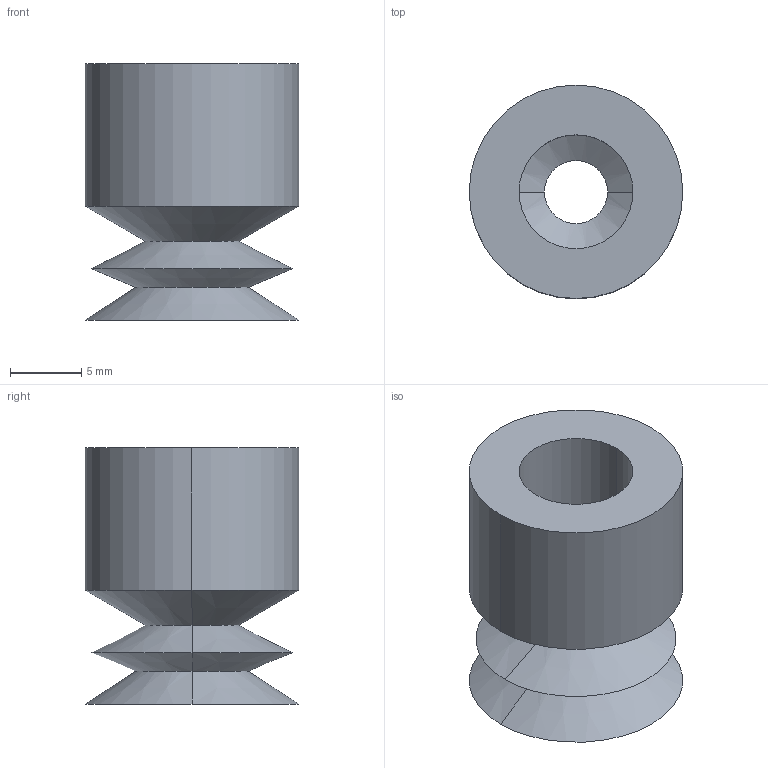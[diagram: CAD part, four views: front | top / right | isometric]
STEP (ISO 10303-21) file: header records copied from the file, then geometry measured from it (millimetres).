
FILE_DESCRIPTION (( 'STEP AP214' ), '1' );
FILE_NAME ('VSH2-M15.STEP', '2019-11-14T00:36:47', ( '微软用户' ), ( '微软中国' ), 'SwSTEP 2.0', 'SolidWorks 2016', '' );
FILE_SCHEMA (( 'AUTOMOTIVE_DESIGN' ));
Length unit declared in the file: millimetre
Products named in the file (1): VSH2-M15
Bounding box: 15 x 15 x 18 mm (x, y, z)
Volume: 1156.7 mm3; surface area: 2104.6 mm2
Topology: 1 solids, 1 shells, 28 faces, 56 edges, 32 vertices
Faces by surface type: cone 16, cylinder 8, plane 4
Entity records: 762 total; most frequent: DIRECTION 146, CARTESIAN_POINT 117, ORIENTED_EDGE 112, AXIS2_PLACEMENT_3D 61, EDGE_CURVE 56, CIRCLE 32, EDGE_LOOP 32, VERTEX_POINT 32
